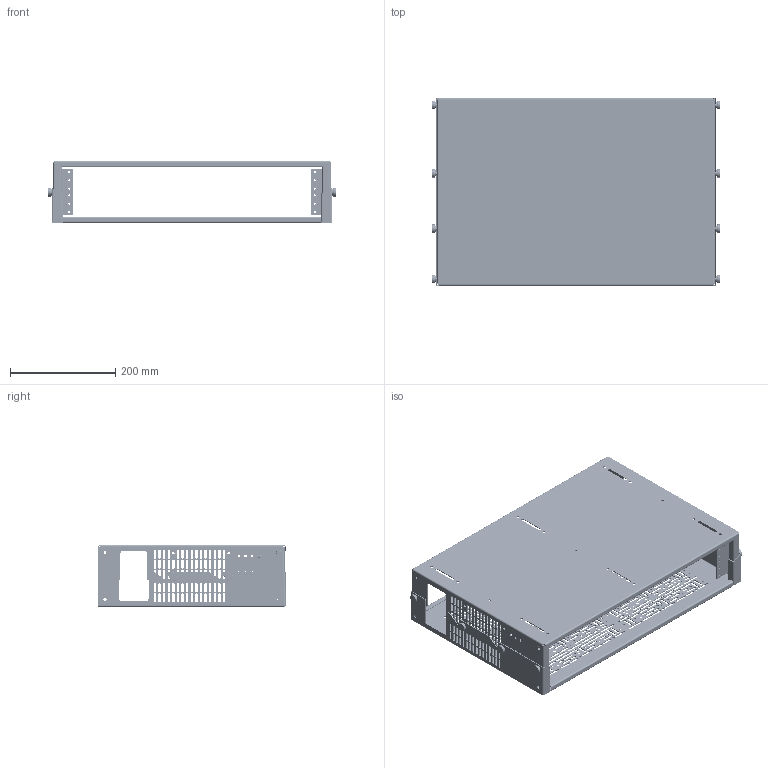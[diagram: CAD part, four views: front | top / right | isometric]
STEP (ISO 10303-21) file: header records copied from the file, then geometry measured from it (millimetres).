
FILE_DESCRIPTION((''),'2;1');
FILE_NAME('AUTBFR1_ASM','2015-12-15T',('rrenderos'),('Middle Atlantic Products'),'PRO/ENGINEER BY PARAMETRIC TECHNOLOGY CORPORATION, 2014310','PRO/ENGINEER BY PARAMETRIC TECHNOLOGY CORPORATION, 2014310','');
FILE_SCHEMA(('CONFIG_CONTROL_DESIGN'));
Length unit declared in the file: inch
Products named in the file (12): BUTBT1; 80-032; PUTBT1_ASM; 500-00432; AUTBT1_ASM; BUTBB1; CVRR2; 500-00120; 500-00511; 500-00490; GSHL; AUTBFR1_ASM
Assembly tree (39 placements, depth 4):
  AUTBFR1_ASM
    AUTBT1_ASM
      PUTBT1_ASM
        BUTBT1
        80-032  x12
      500-00432  x4
    BUTBB1
    CVRR2  x2
    500-00120  x4
    500-00511  x4
    500-00490  x8
    GSHL
Bounding box: 545.34 x 355.6 x 117.47 mm (x, y, z)
Volume: 708763.5 mm3; surface area: 967996.9 mm2
Topology: 36 solids, 36 shells, 4502 faces, 12626 edges, 8264 vertices
Faces by surface type: cylinder 2400, plane 1750, cone 244, torus 80, bspline 28
Entity records: 139260 total; most frequent: DIRECTION 24370, CARTESIAN_POINT 24304, ORIENTED_EDGE 23300, EDGE_CURVE 11650, AXIS2_PLACEMENT_3D 8692, VERTEX_POINT 7652, VECTOR 6986, LINE 6986
